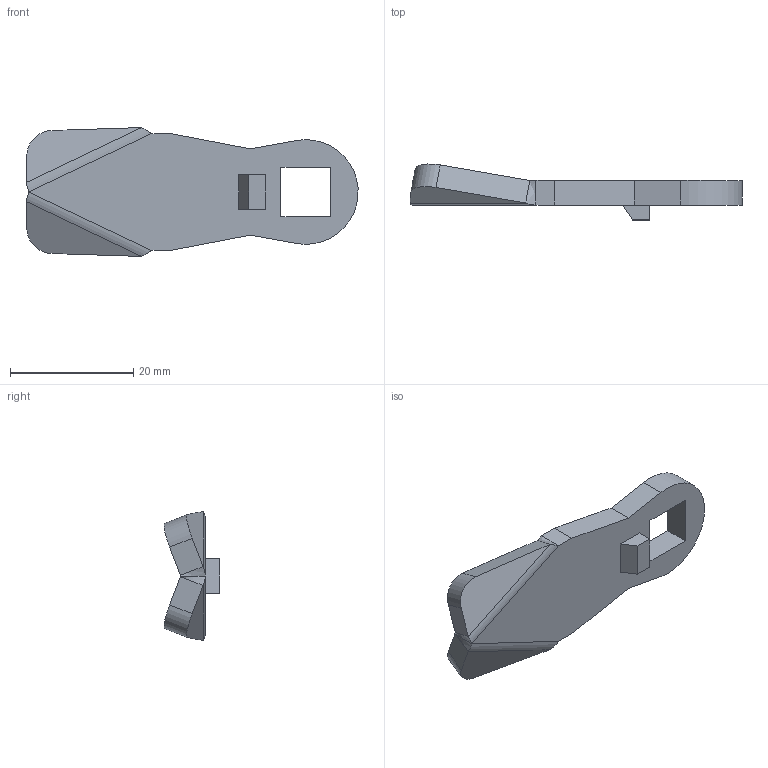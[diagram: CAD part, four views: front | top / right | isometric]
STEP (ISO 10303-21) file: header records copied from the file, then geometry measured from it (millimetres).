
FILE_DESCRIPTION((''),'2;1');
FILE_NAME('C:\Documents and Settings\Administrator\My Documents\Andys Backup Data\ANDY''S INVENTOR\INVENTOR LIBRARIES\MINITEC INVENTOR LIBRARIES\HANDLES LOCKS STOPS\21.1093_2 CAM+0.stp','2010-10-19T15:20:25',('Administrator'),(''),'Autodesk Inventor 2009','Autodesk Inventor 2009','');
FILE_SCHEMA(('CONFIG_CONTROL_DESIGN'));
Length unit declared in the file: millimetre
Products named in the file (1): 21.1093_2 CAM+0
Bounding box: 53.93 x 9.08 x 20.94 mm (x, y, z)
Volume: 3387.7 mm3; surface area: 2430.7 mm2
Topology: 1 solids, 1 shells, 39 faces, 93 edges, 58 vertices
Faces by surface type: plane 30, cylinder 5, bspline 4
Entity records: 1202 total; most frequent: CARTESIAN_POINT 295, ORIENTED_EDGE 186, DIRECTION 167, EDGE_CURVE 93, VECTOR 83, LINE 83, VERTEX_POINT 58, EDGE_LOOP 43
